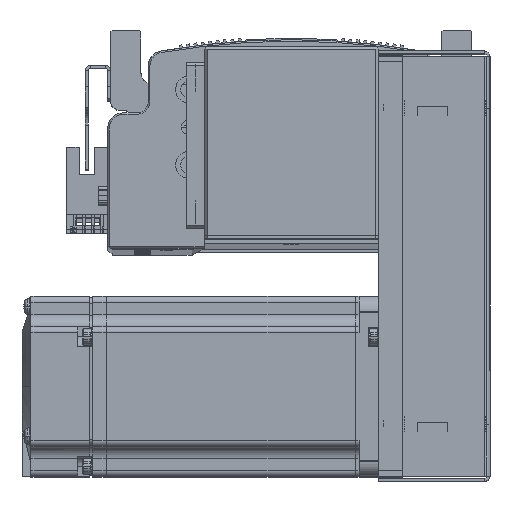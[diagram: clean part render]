
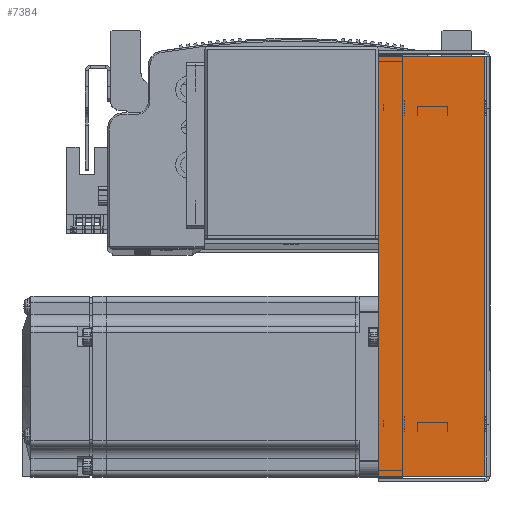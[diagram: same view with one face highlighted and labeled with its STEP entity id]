
A CAD part, top view. The second image highlights one B-rep face of the part: STEP entity #7384.
In plain terms, the highlighted planar face has unit normal (0, 0, 1).
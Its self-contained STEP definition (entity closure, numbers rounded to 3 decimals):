
#2218 = ORIENTED_EDGE ( 'NONE', *, *, #25706, .T. ) ;
#2239 = ORIENTED_EDGE ( 'NONE', *, *, #25696, .T. ) ;
#2308 = ORIENTED_EDGE ( 'NONE', *, *, #25664, .F. ) ;
#2313 = ORIENTED_EDGE ( 'NONE', *, *, #25663, .F. ) ;
#7384 = ADVANCED_FACE ( 'NONE', ( #29154 ), #92055, .F. ) ;
#9927 = CARTESIAN_POINT ( 'NONE',  ( -71.5, 0.737, 33.5 ) ) ;
#9930 = CARTESIAN_POINT ( 'NONE',  ( -69.793, 0., 33.5 ) ) ;
#9954 = DIRECTION ( 'NONE',  ( -1., 0., 0. ) ) ;
#9986 = DIRECTION ( 'NONE',  ( 0., 1., 0. ) ) ;
#10075 = DIRECTION ( 'NONE',  ( -1., 0., 0. ) ) ;
#10079 = CARTESIAN_POINT ( 'NONE',  ( 69.793, 0., 33.5 ) ) ;
#10090 = CARTESIAN_POINT ( 'NONE',  ( 0., 36., 33.5 ) ) ;
#10092 = DIRECTION ( 'NONE',  ( 0., 1., 0. ) ) ;
#14184 = AXIS2_PLACEMENT_3D ( 'NONE', #92008, #91992, #92045 ) ;
#25663 = EDGE_CURVE ( 'NONE', #68973, #69003, #88656, .T. ) ;
#25664 = EDGE_CURVE ( 'NONE', #69003, #69121, #88652, .T. ) ;
#25696 = EDGE_CURVE ( 'NONE', #68973, #69137, #88744, .T. ) ;
#25706 = EDGE_CURVE ( 'NONE', #69137, #69121, #88876, .T. ) ;
#29154 = FACE_OUTER_BOUND ( 'NONE', #64570, .T. ) ;
#43492 = CARTESIAN_POINT ( 'NONE',  ( -69.793, 0.737, 33.5 ) ) ;
#43515 = CARTESIAN_POINT ( 'NONE',  ( 69.793, 0.737, 33.5 ) ) ;
#43583 = CARTESIAN_POINT ( 'NONE',  ( -69.793, 36., 33.5 ) ) ;
#43585 = CARTESIAN_POINT ( 'NONE',  ( 69.793, 36., 33.5 ) ) ;
#64570 = EDGE_LOOP ( 'NONE', ( #2313, #2239, #2218, #2308 ) ) ;
#68973 = VERTEX_POINT ( 'NONE', #43515 ) ;
#69003 = VERTEX_POINT ( 'NONE', #43492 ) ;
#69121 = VERTEX_POINT ( 'NONE', #43583 ) ;
#69137 = VERTEX_POINT ( 'NONE', #43585 ) ;
#88652 = LINE ( 'NONE', #9930, #88702 ) ;
#88656 = LINE ( 'NONE', #9927, #88699 ) ;
#88699 = VECTOR ( 'NONE', #9954, 1000. ) ;
#88702 = VECTOR ( 'NONE', #9986, 1000. ) ;
#88744 = LINE ( 'NONE', #10079, #88783 ) ;
#88783 = VECTOR ( 'NONE', #10092, 1000. ) ;
#88876 = LINE ( 'NONE', #10090, #88879 ) ;
#88879 = VECTOR ( 'NONE', #10075, 1000. ) ;
#91992 = DIRECTION ( 'NONE',  ( 0., 0., -1. ) ) ;
#92008 = CARTESIAN_POINT ( 'NONE',  ( 0., 0., 33.5 ) ) ;
#92045 = DIRECTION ( 'NONE',  ( -1., 0., 0. ) ) ;
#92055 = PLANE ( 'NONE',  #14184 ) ;
